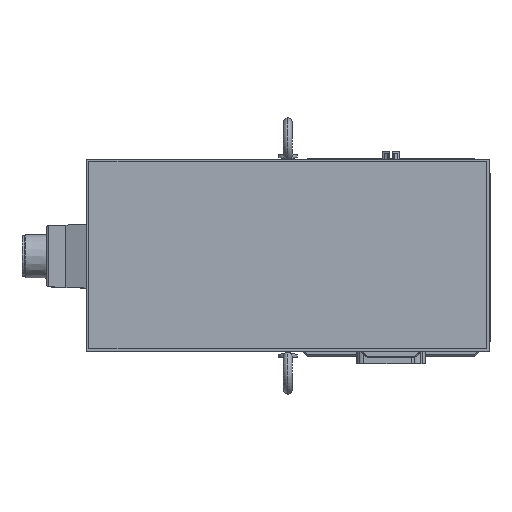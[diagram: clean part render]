
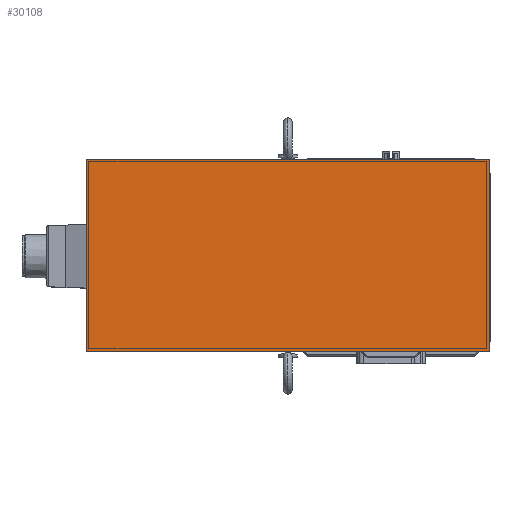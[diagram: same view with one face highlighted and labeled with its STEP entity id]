
A CAD part, top view. The second image highlights one B-rep face of the part: STEP entity #30108.
In plain terms, the highlighted planar face has unit normal (0, 0, 1).
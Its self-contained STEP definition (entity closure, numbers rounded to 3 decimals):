
#30069=CARTESIAN_POINT('',(-75.5,-77.,621.));
#30070=DIRECTION('',(0.,-1.,0.));
#30071=DIRECTION('',(-0.,0.,1.));
#30072=AXIS2_PLACEMENT_3D('',#30069,#30071,#30070);
#30073=PLANE('',#30072);
#30074=CARTESIAN_POINT('',(72.,70.5,621.));
#30075=VERTEX_POINT('',#30074);
#30076=CARTESIAN_POINT('',(-223.,70.5,621.));
#30077=VERTEX_POINT('',#30076);
#30078=CARTESIAN_POINT('',(72.,70.5,621.));
#30079=DIRECTION('',(-1.,0.,0.));
#30080=VECTOR('',#30079,295.);
#30081=LINE('',#30078,#30080);
#30082=EDGE_CURVE('',#30075,#30077,#30081,.T.);
#30083=ORIENTED_EDGE('E2311',*,*,#30082,.T.);
#30084=CARTESIAN_POINT('',(-223.,-70.5,621.));
#30085=VERTEX_POINT('',#30084);
#30086=CARTESIAN_POINT('',(-223.,70.5,621.));
#30087=DIRECTION('',(0.,-1.,0.));
#30088=VECTOR('',#30087,141.);
#30089=LINE('',#30086,#30088);
#30090=EDGE_CURVE('',#30077,#30085,#30089,.T.);
#30091=ORIENTED_EDGE('E2312',*,*,#30090,.T.);
#30092=CARTESIAN_POINT('',(72.,-70.5,621.));
#30093=VERTEX_POINT('',#30092);
#30094=CARTESIAN_POINT('',(-223.,-70.5,621.));
#30095=DIRECTION('',(1.,0.,0.));
#30096=VECTOR('',#30095,295.);
#30097=LINE('',#30094,#30096);
#30098=EDGE_CURVE('',#30085,#30093,#30097,.T.);
#30099=ORIENTED_EDGE('E2313',*,*,#30098,.T.);
#30100=CARTESIAN_POINT('',(72.,-70.5,621.));
#30101=DIRECTION('',(0.,1.,0.));
#30102=VECTOR('',#30101,141.);
#30103=LINE('',#30100,#30102);
#30104=EDGE_CURVE('',#30093,#30075,#30103,.T.);
#30105=ORIENTED_EDGE('E2314',*,*,#30104,.T.);
#30106=EDGE_LOOP('',(#30083,#30091,#30099,#30105));
#30107=FACE_OUTER_BOUND('',#30106,.T.);
#30108=ADVANCED_FACE('F937',(#30107),#30073,.T.);
